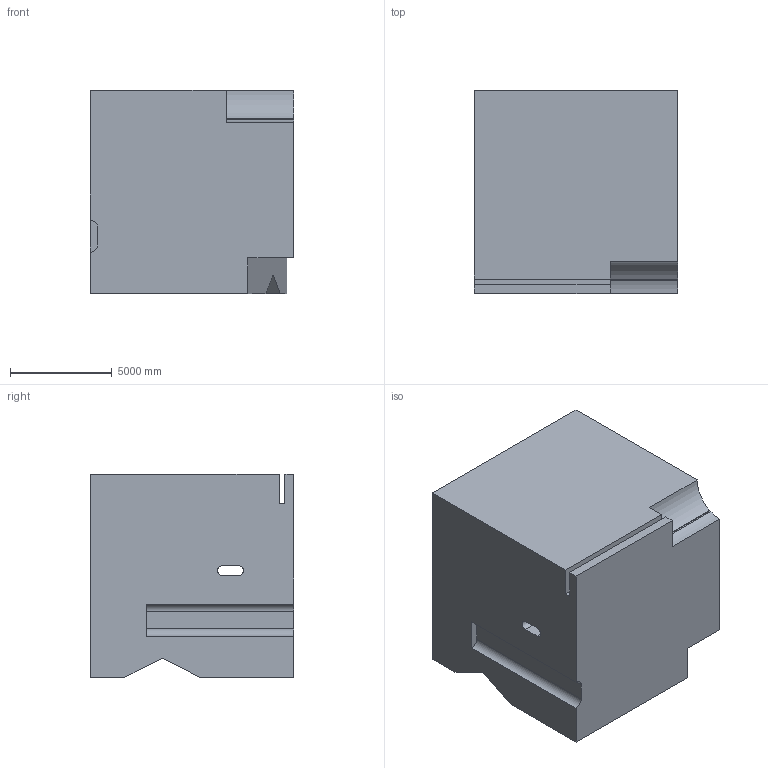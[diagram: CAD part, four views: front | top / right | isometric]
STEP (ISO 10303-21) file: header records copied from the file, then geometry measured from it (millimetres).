
FILE_DESCRIPTION (( 'STEP AP203' ), '1' );
FILE_NAME ('179.STEP', '2022-09-05T15:58:50', ( 'user' ), ( '' ), 'SwSTEP 2.0', 'SolidWorks 2021', '' );
FILE_SCHEMA (( 'CONFIG_CONTROL_DESIGN' ));
Length unit declared in the file: centimetre
Products named in the file (1): 179
Bounding box: 10000 x 10000 x 10000 mm (x, y, z)
Volume: 912374119492.3 mm3; surface area: 711978700.8 mm2
Topology: 1 solids, 1 shells, 33 faces, 87 edges, 58 vertices
Faces by surface type: plane 23, cylinder 10
Entity records: 1102 total; most frequent: CARTESIAN_POINT 179, DIRECTION 175, ORIENTED_EDGE 174, EDGE_CURVE 87, VECTOR 67, LINE 67, VERTEX_POINT 58, AXIS2_PLACEMENT_3D 54
